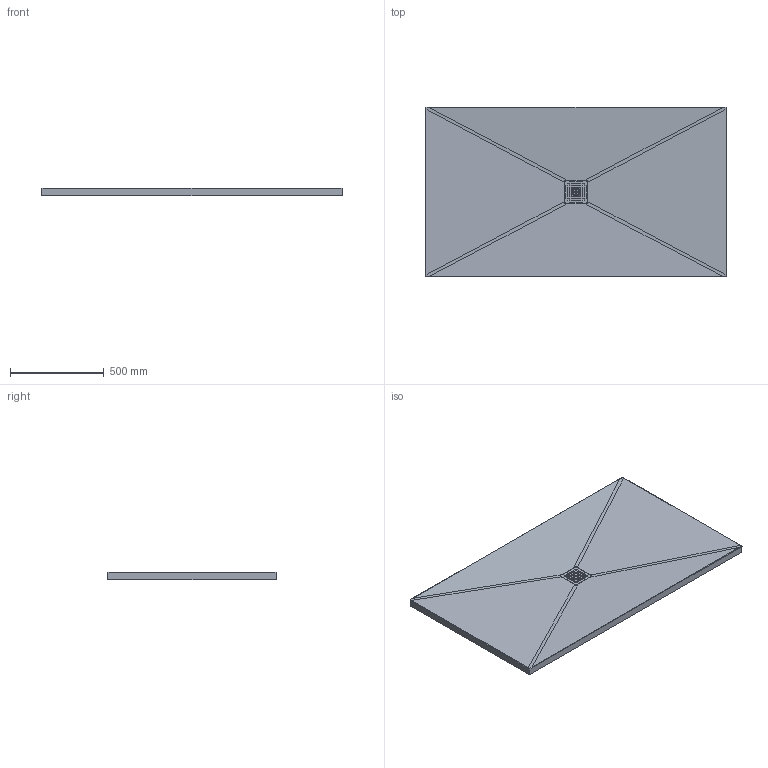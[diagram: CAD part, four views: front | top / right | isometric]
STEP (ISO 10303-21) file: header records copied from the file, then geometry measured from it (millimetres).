
FILE_DESCRIPTION (( 'STEP AP214' ), '1' );
FILE_NAME ('TRENT 160x90.STEP', '2024-05-13T12:02:31', ( '' ), ( '' ), 'SwSTEP 2.0', 'SolidWorks 2021', '' );
FILE_SCHEMA (( 'AUTOMOTIVE_DESIGN' ));
Length unit declared in the file: millimetre
Products named in the file (1): TRENT 160x90
Bounding box: 1600 x 900 x 40.05 mm (x, y, z)
Volume: 20010626.2 mm3; surface area: 3479670.7 mm2
Topology: 3 solids, 3 shells, 833 faces, 1993 edges, 1151 vertices
Faces by surface type: cylinder 365, bspline 291, plane 177
Full cylindrical faces by diameter (mm): 66 x1
Entity records: 38371 total; most frequent: CARTESIAN_POINT 21513, ORIENTED_EDGE 3974, DIRECTION 2508, EDGE_CURVE 1987, VERTEX_POINT 1151, LINE 928, VECTOR 928, EDGE_LOOP 902
